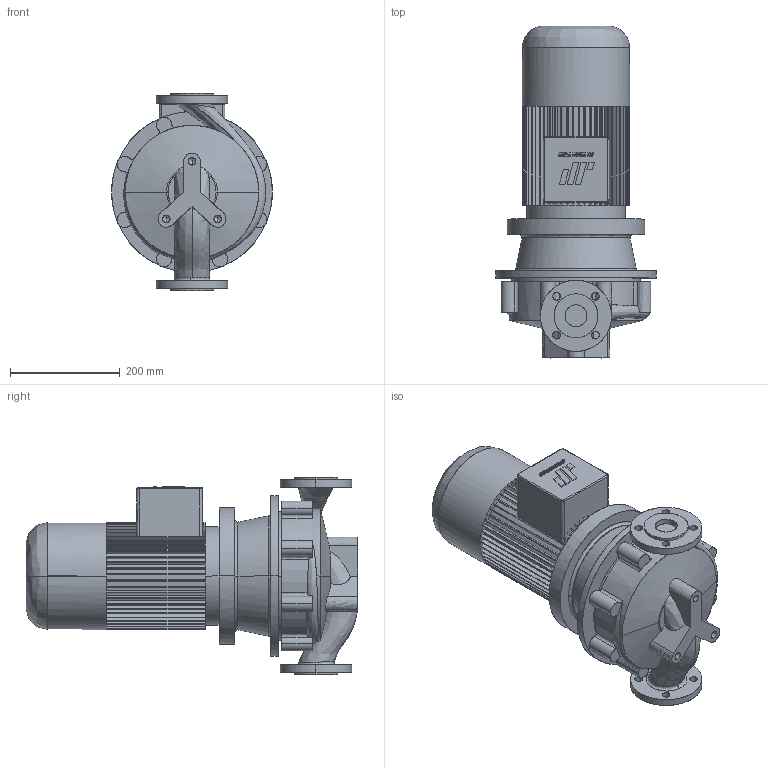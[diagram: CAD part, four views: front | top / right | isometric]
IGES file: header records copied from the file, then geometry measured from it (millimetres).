
Start section: CombiLine
Global section: file name: CLB_40-200_IEC100L.igs; native system:  By UGS Corp.; preprocessor: XPlus GENERIC/IGES 3.0; author: Stageplaats; organization: Johnson Pump Water B.V.; date: 20070712.151608; units: millimetre
Bounding box: 293 x 604.5 x 360 mm (x, y, z)
Surface area: 855979.4 mm2 (no closed solid volume)
Topology: 0 solids, 0 shells, 669 faces, 3860 edges, 3854 vertices
Faces by surface type: bspline 669
